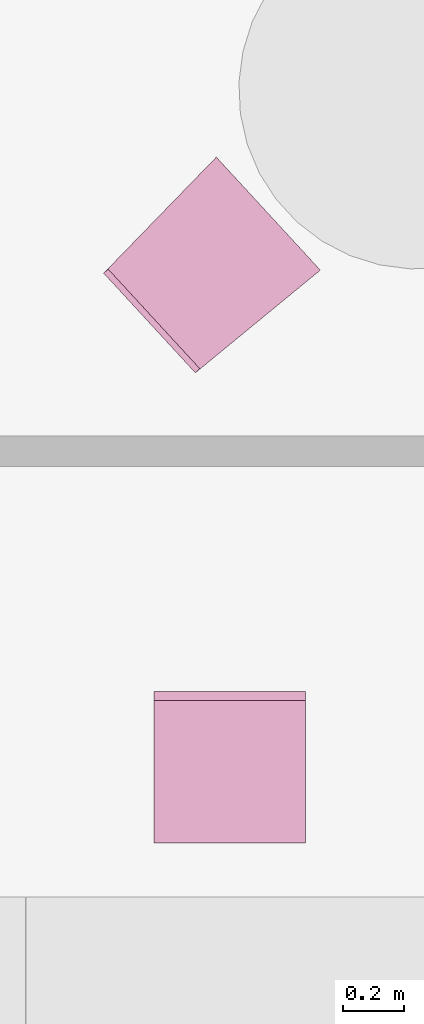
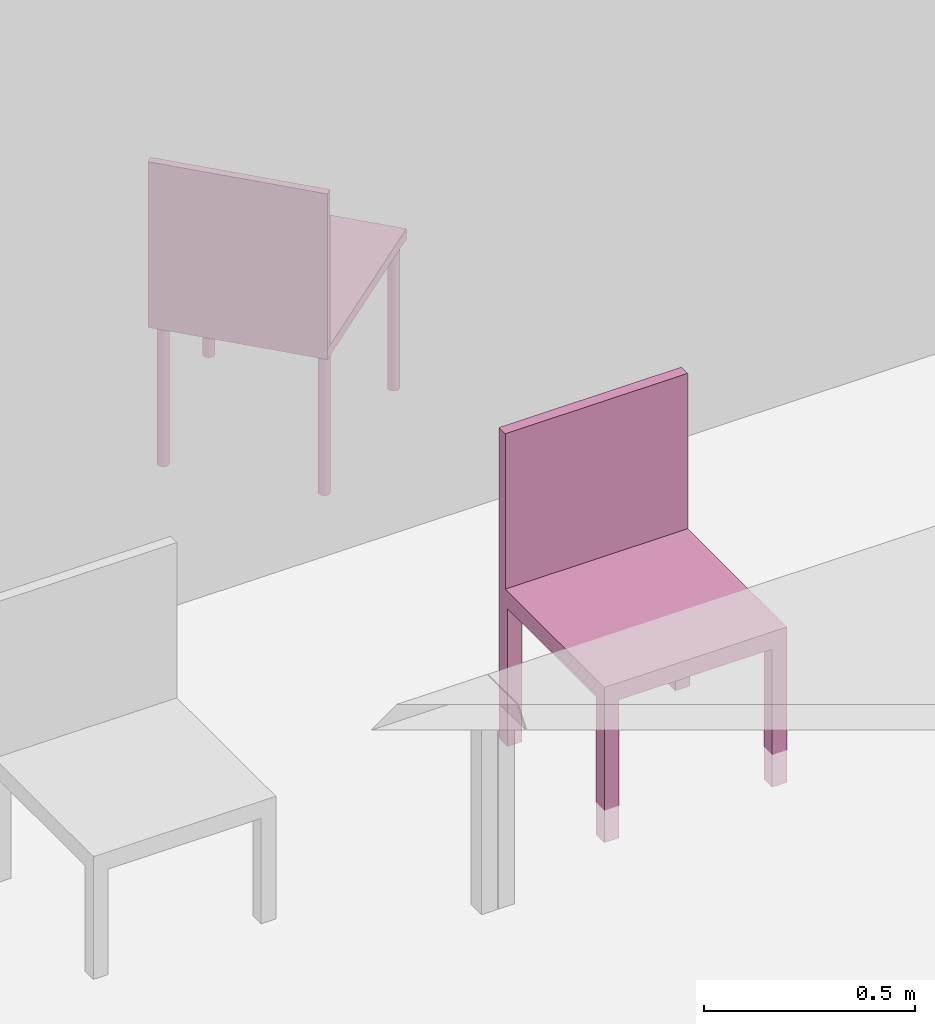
"""IFC4 building model written with IfcOpenShell, lengths in metres."""

from ifc_helpers import new_model, entity, si_unit, converted_unit, derived_unit, frame, origin, place, context, subcontext, project, spatial, faceted_brep, element, save


model = new_model("IFC4")

# Units and contexts
model_context = context("Model", 3, precision=1e-05, world=origin())
body_context = subcontext(model_context, "Body", "Model", "MODEL_VIEW")
ifc_project = project(units=[si_unit("LENGTHUNIT", "METRE"), si_unit("AREAUNIT", "SQUARE_METRE"), si_unit("VOLUMEUNIT", "CUBIC_METRE"), si_unit("MASSUNIT", "GRAM", prefix="KILO"), converted_unit("PLANEANGLEUNIT", "DEGREE", entity("IfcPlaneAngleMeasure", 0.0174532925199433), si_unit("PLANEANGLEUNIT", "RADIAN"), dimensions=[0, 0, 0, 0, 0, 0, 0]), derived_unit("THERMALTRANSMITTANCEUNIT", [(si_unit("POWERUNIT", "WATT"), 1), (si_unit("THERMODYNAMICTEMPERATUREUNIT", "KELVIN"), -1), (si_unit("LENGTHUNIT", "METRE"), -2)]), derived_unit("VOLUMETRICFLOWRATEUNIT", [(si_unit("LENGTHUNIT", "METRE"), 3), (converted_unit("TIMEUNIT", "hour", entity("IfcTimeMeasure", 3600.0), si_unit("TIMEUNIT", "SECOND"), dimensions=[0, 0, 1, 0, 0, 0, 0]), -1), (si_unit("LENGTHUNIT", "METRE"), -1)])], contexts=[model_context])

# Building, storeys
building_placement = place(None, origin())
building = spatial("IfcBuilding", under=ifc_project, at=building_placement, Name="HABITATGE PLURIFAMILIAR", CompositionType="ELEMENT")
storey_1_placement = place(building_placement, frame((0.0, 0.0, 9.26)))
storey_1 = spatial("IfcBuildingStorey", under=building, at=storey_1_placement, Name="PLANTA SEGONA", CompositionType="ELEMENT", Elevation=9.26)
storey_2_placement = place(storey_1_placement, frame((0.0, 0.0, 6.25)))
storey_2 = spatial("IfcBuildingStorey", under=storey_1, at=storey_2_placement, Name="NOU", CompositionType="PARTIAL")

# Furniture
furniture_1_placement = place(storey_2_placement, frame((424.268725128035, 22.9635842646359, -6.34505686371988)))
element("IfcFurniture", 1, at=furniture_1_placement, inside=storey_2, Name="Cadira d'Oficina_P2", context=body_context, shape_type="Brep", body=[
    faceted_brep([(0.5, 0.0, 0.4), (0.5, 0.500000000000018, 0.4), (0.0, 0.5, 0.4), (0.0, 0.0, 0.4), (0.5, 0.500000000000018, 0.45), (0.5, 0.0, 0.45), (0.0, 0.0, 0.45), (0.0, 0.5, 0.45)], [[[0, 1, 2, 3]], [[4, 5, 6, 7]], [[1, 0, 5, 4]], [[2, 1, 4, 7]], [[3, 2, 7, 6]], [[0, 3, 6, 5]]], orient=[[False], [False], [False], [False], [False], [False]]),
    faceted_brep([(0.0, 0.46, 0.0), (0.04, 0.46, 0.0), (0.04, 0.5, 0.0), (0.0, 0.5, 0.0), (0.04, 0.46, 0.4), (0.0, 0.46, 0.4), (0.0, 0.5, 0.4), (0.04, 0.5, 0.4)], [[[0, 1, 2, 3]], [[4, 5, 6, 7]], [[1, 0, 5, 4]], [[2, 1, 4, 7]], [[3, 2, 7, 6]], [[0, 3, 6, 5]]], orient=[[False], [False], [False], [False], [False], [False]]),
    faceted_brep([(0.0, 0.0, 0.0), (0.04, 0.0, 0.0), (0.04, 0.04, 0.0), (0.0, 0.04, 0.0), (0.04, 0.0, 0.4), (0.0, 0.0, 0.4), (0.0, 0.04, 0.4), (0.04, 0.04, 0.4)], [[[0, 1, 2, 3]], [[4, 5, 6, 7]], [[1, 0, 5, 4]], [[2, 1, 4, 7]], [[3, 2, 7, 6]], [[0, 3, 6, 5]]], orient=[[False], [False], [False], [False], [False], [False]]),
    faceted_brep([(0.46, 0.460000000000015, 0.0), (0.5, 0.460000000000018, 0.0), (0.5, 0.500000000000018, 0.0), (0.46, 0.500000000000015, 0.0), (0.5, 0.460000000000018, 0.4), (0.46, 0.460000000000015, 0.4), (0.46, 0.500000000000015, 0.4), (0.5, 0.500000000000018, 0.4)], [[[0, 1, 2, 3]], [[4, 5, 6, 7]], [[1, 0, 5, 4]], [[2, 1, 4, 7]], [[3, 2, 7, 6]], [[0, 3, 6, 5]]], orient=[[False], [False], [False], [False], [False], [False]]),
    faceted_brep([(0.46, 0.0, 0.0), (0.5, 0.0, 0.0), (0.5, 0.0400000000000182, 0.0), (0.46, 0.0400000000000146, 0.0), (0.5, 0.0, 0.4), (0.46, 0.0, 0.4), (0.46, 0.0400000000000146, 0.4), (0.5, 0.0400000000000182, 0.4)], [[[0, 1, 2, 3]], [[4, 5, 6, 7]], [[1, 0, 5, 4]], [[2, 1, 4, 7]], [[3, 2, 7, 6]], [[0, 3, 6, 5]]], orient=[[False], [False], [False], [False], [False], [False]]),
    faceted_brep([(0.0, 0.47, 0.45), (0.5, 0.470000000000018, 0.45), (0.5, 0.500000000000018, 0.45), (0.0, 0.5, 0.45), (0.5, 0.470000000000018, 0.9), (0.0, 0.47, 0.9), (0.0, 0.5, 0.9), (0.5, 0.500000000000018, 0.9)], [[[0, 1, 2, 3]], [[4, 5, 6, 7]], [[1, 0, 5, 4]], [[2, 1, 4, 7]], [[3, 2, 7, 6]], [[0, 3, 6, 5]]], orient=[[False], [False], [False], [False], [False], [False]]),
])
furniture_2_placement = place(storey_2_placement, frame((424.102623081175, 24.5138895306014, -6.3514820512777)))
element("IfcFurniture", 2, at=furniture_2_placement, inside=storey_2, Name="Cadira confident_P2", context=body_context, shape_type="Brep", body=[
    faceted_brep([(0.669598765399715, 0.350446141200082, 0.0), (0.66784390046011, 0.348522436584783, 0.0), (0.666449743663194, 0.346323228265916, 0.0), (0.665458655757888, 0.343915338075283, 0.0), (0.664900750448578, 0.341371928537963, 0.0), (0.664792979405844, 0.338770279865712, 0.0), (0.665138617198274, 0.336189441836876, 0.0), (0.665927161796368, 0.333707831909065, 0.0), (0.667134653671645, 0.331400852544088, 0.0), (0.668724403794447, 0.329338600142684, 0.0), (0.670648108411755, 0.327583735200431, 0.0), (0.672847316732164, 0.326189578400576, 0.0), (0.675255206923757, 0.325198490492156, 0.0), (0.677798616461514, 0.324640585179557, 0.0), (0.680400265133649, 0.324532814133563, 0.0), (0.682981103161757, 0.324878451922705, 0.0), (0.685462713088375, 0.325666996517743, 0.0), (0.687769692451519, 0.326874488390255, 0.0), (0.689831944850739, 0.328464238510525, 0.0), (0.691586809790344, 0.330387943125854, 0.0), (0.69298096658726, 0.332587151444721, 0.0), (0.693972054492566, 0.334995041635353, 0.0), (0.694529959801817, 0.337538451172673, 0.0), (0.69463773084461, 0.340140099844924, 0.0), (0.69429209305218, 0.342720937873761, 0.0), (0.693503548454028, 0.345202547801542, 0.0), (0.692296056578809, 0.34750952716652, 0.0), (0.690706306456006, 0.349571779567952, 0.0), (0.688782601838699, 0.351326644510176, 0.0), (0.686583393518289, 0.352720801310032, 0.0), (0.684175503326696, 0.353711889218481, 0.0), (0.681632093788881, 0.354269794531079, 0.0), (0.679030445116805, 0.354377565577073, 0.0), (0.676449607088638, 0.354031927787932, 0.0), (0.673967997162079, 0.353243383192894, 0.0), (0.671661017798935, 0.352035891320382, 0.0), (0.669598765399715, 0.350446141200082, 0.448281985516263), (0.671661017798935, 0.352035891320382, 0.448281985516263), (0.673967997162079, 0.353243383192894, 0.448281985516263), (0.676449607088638, 0.354031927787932, 0.448281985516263), (0.679030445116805, 0.354377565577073, 0.448281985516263), (0.681632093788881, 0.354269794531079, 0.448281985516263), (0.684175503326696, 0.353711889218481, 0.448281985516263), (0.686583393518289, 0.352720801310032, 0.448281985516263), (0.688782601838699, 0.351326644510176, 0.448281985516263), (0.690706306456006, 0.349571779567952, 0.448281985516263), (0.692296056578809, 0.34750952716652, 0.448281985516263), (0.693503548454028, 0.345202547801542, 0.448281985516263), (0.69429209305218, 0.342720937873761, 0.448281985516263), (0.69463773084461, 0.340140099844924, 0.448281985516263), (0.694529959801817, 0.337538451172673, 0.448281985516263), (0.693972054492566, 0.334995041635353, 0.448281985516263), (0.69298096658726, 0.332587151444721, 0.448281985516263), (0.691586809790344, 0.330387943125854, 0.448281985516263), (0.689831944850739, 0.328464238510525, 0.448281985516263), (0.687769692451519, 0.326874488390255, 0.448281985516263), (0.685462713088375, 0.325666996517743, 0.448281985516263), (0.682981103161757, 0.324878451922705, 0.448281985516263), (0.680400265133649, 0.324532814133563, 0.448281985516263), (0.677798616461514, 0.324640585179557, 0.448281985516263), (0.675255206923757, 0.325198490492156, 0.448281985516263), (0.672847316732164, 0.326189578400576, 0.448281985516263), (0.670648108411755, 0.327583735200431, 0.448281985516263), (0.668724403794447, 0.329338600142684, 0.448281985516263), (0.667134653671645, 0.331400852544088, 0.448281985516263), (0.665927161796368, 0.333707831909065, 0.448281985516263), (0.665138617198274, 0.336189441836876, 0.448281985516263), (0.664792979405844, 0.338770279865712, 0.448281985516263), (0.664900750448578, 0.341371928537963, 0.448281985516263), (0.665458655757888, 0.343915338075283, 0.448281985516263), (0.666449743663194, 0.346323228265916, 0.448281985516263), (0.66784390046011, 0.348522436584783, 0.448281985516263)], [[[0, 1, 2, 3, 4, 5, 6, 7, 8, 9, 10, 11, 12, 13, 14, 15, 16, 17, 18, 19, 20, 21, 22, 23, 24, 25, 26, 27, 28, 29, 30, 31, 32, 33, 34, 35]], [[36, 37, 38, 39, 40, 41, 42, 43, 44, 45, 46, 47, 48, 49, 50, 51, 52, 53, 54, 55, 56, 57, 58, 59, 60, 61, 62, 63, 64, 65, 66, 67, 68, 69, 70, 71]], [[1, 0, 36, 71]], [[2, 1, 71, 70]], [[3, 2, 70, 69]], [[4, 3, 69, 68]], [[5, 4, 68, 67]], [[6, 5, 67, 66]], [[7, 6, 66, 65]], [[8, 7, 65, 64]], [[9, 8, 64, 63]], [[10, 9, 63, 62]], [[11, 10, 62, 61]], [[12, 11, 61, 60]], [[13, 12, 60, 59]], [[14, 13, 59, 58]], [[15, 14, 58, 57]], [[16, 15, 57, 56]], [[17, 16, 56, 55]], [[18, 17, 55, 54]], [[19, 18, 54, 53]], [[20, 19, 53, 52]], [[21, 20, 52, 51]], [[22, 21, 51, 50]], [[23, 22, 50, 49]], [[24, 23, 49, 48]], [[25, 24, 48, 47]], [[26, 25, 47, 46]], [[27, 26, 46, 45]], [[28, 27, 45, 44]], [[29, 28, 44, 43]], [[30, 29, 43, 42]], [[31, 30, 42, 41]], [[32, 31, 41, 40]], [[33, 32, 40, 39]], [[34, 33, 39, 38]], [[35, 34, 38, 37]], [[0, 35, 37, 36]]], orient=[[False], [False], [False], [False], [False], [False], [False], [False], [False], [False], [False], [False], [False], [False], [False], [False], [False], [False], [False], [False], [False], [False], [False], [False], [False], [False], [False], [False], [False], [False], [False], [False], [False], [False], [False], [False], [False], [False]]),
    faceted_brep([(0.31065747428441, 0.0576231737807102, 0.0), (0.308902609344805, 0.0556994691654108, 0.0), (0.307508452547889, 0.0535002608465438, 0.0), (0.306517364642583, 0.0510923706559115, 0.0), (0.305959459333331, 0.0485489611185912, 0.0), (0.305851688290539, 0.0459473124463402, 0.0), (0.306197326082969, 0.0433664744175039, 0.0), (0.306985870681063, 0.0408848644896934, 0.0), (0.30819336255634, 0.038577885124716, 0.0), (0.309783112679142, 0.0365156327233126, 0.0), (0.311706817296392, 0.0347607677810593, 0.0), (0.31390602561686, 0.0333666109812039, 0.0), (0.316313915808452, 0.0323755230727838, 0.0), (0.318857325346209, 0.0318176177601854, 0.0), (0.321458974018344, 0.0317098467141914, 0.0), (0.324039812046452, 0.032055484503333, 0.0), (0.32652142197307, 0.0328440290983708, 0.0), (0.328828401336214, 0.0340515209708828, 0.0), (0.330890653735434, 0.0356412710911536, 0.0), (0.332645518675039, 0.0375649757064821, 0.0), (0.334039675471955, 0.0397641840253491, 0.0), (0.335030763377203, 0.0421720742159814, 0.0), (0.335588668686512, 0.0447154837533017, 0.0), (0.335696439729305, 0.0473171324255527, 0.0), (0.335350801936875, 0.049897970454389, 0.0), (0.334562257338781, 0.0523795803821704, 0.0), (0.333354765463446, 0.0546865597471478, 0.0), (0.331765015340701, 0.0567488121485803, 0.0), (0.329841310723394, 0.0585036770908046, 0.0), (0.327642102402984, 0.05989783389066, 0.0), (0.325234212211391, 0.0608889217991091, 0.0), (0.322690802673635, 0.0614468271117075, 0.0), (0.3200891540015, 0.0615545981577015, 0.0), (0.317508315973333, 0.0612089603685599, 0.0), (0.315026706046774, 0.0604204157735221, 0.0), (0.31271972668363, 0.0592129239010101, 0.0), (0.31065747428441, 0.0576231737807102, 0.448281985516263), (0.31271972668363, 0.0592129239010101, 0.448281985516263), (0.315026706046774, 0.0604204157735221, 0.448281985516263), (0.317508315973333, 0.0612089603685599, 0.448281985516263), (0.3200891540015, 0.0615545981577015, 0.448281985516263), (0.322690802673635, 0.0614468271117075, 0.448281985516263), (0.325234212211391, 0.0608889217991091, 0.448281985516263), (0.327642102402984, 0.05989783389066, 0.448281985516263), (0.329841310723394, 0.0585036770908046, 0.448281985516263), (0.331765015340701, 0.0567488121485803, 0.448281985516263), (0.333354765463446, 0.0546865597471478, 0.448281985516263), (0.334562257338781, 0.0523795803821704, 0.448281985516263), (0.335350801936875, 0.049897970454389, 0.448281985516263), (0.335696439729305, 0.0473171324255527, 0.448281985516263), (0.335588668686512, 0.0447154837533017, 0.448281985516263), (0.335030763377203, 0.0421720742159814, 0.448281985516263), (0.334039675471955, 0.0397641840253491, 0.448281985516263), (0.332645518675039, 0.0375649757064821, 0.448281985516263), (0.330890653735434, 0.0356412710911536, 0.448281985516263), (0.328828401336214, 0.0340515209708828, 0.448281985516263), (0.32652142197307, 0.0328440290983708, 0.448281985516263), (0.324039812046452, 0.032055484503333, 0.448281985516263), (0.321458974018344, 0.0317098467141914, 0.448281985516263), (0.318857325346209, 0.0318176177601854, 0.448281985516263), (0.316313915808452, 0.0323755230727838, 0.448281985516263), (0.31390602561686, 0.0333666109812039, 0.448281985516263), (0.311706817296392, 0.0347607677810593, 0.448281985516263), (0.309783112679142, 0.0365156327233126, 0.448281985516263), (0.30819336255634, 0.038577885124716, 0.448281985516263), (0.306985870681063, 0.0408848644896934, 0.448281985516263), (0.306197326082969, 0.0433664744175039, 0.448281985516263), (0.305851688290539, 0.0459473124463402, 0.448281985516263), (0.305959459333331, 0.0485489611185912, 0.448281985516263), (0.306517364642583, 0.0510923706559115, 0.448281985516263), (0.307508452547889, 0.0535002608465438, 0.448281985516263), (0.308902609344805, 0.0556994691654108, 0.448281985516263)], [[[0, 1, 2, 3, 4, 5, 6, 7, 8, 9, 10, 11, 12, 13, 14, 15, 16, 17, 18, 19, 20, 21, 22, 23, 24, 25, 26, 27, 28, 29, 30, 31, 32, 33, 34, 35]], [[36, 37, 38, 39, 40, 41, 42, 43, 44, 45, 46, 47, 48, 49, 50, 51, 52, 53, 54, 55, 56, 57, 58, 59, 60, 61, 62, 63, 64, 65, 66, 67, 68, 69, 70, 71]], [[1, 0, 36, 71]], [[2, 1, 71, 70]], [[3, 2, 70, 69]], [[4, 3, 69, 68]], [[5, 4, 68, 67]], [[6, 5, 67, 66]], [[7, 6, 66, 65]], [[8, 7, 65, 64]], [[9, 8, 64, 63]], [[10, 9, 63, 62]], [[11, 10, 62, 61]], [[12, 11, 61, 60]], [[13, 12, 60, 59]], [[14, 13, 59, 58]], [[15, 14, 58, 57]], [[16, 15, 57, 56]], [[17, 16, 56, 55]], [[18, 17, 55, 54]], [[19, 18, 54, 53]], [[20, 19, 53, 52]], [[21, 20, 52, 51]], [[22, 21, 51, 50]], [[23, 22, 50, 49]], [[24, 23, 49, 48]], [[25, 24, 48, 47]], [[26, 25, 47, 46]], [[27, 26, 46, 45]], [[28, 27, 45, 44]], [[29, 28, 44, 43]], [[30, 29, 43, 42]], [[31, 30, 42, 41]], [[32, 31, 41, 40]], [[33, 32, 40, 39]], [[34, 33, 39, 38]], [[35, 34, 38, 37]], [[0, 35, 37, 36]]], orient=[[False], [False], [False], [False], [False], [False], [False], [False], [False], [False], [False], [False], [False], [False], [False], [False], [False], [False], [False], [False], [False], [False], [False], [False], [False], [False], [False], [False], [False], [False], [False], [False], [False], [False], [False], [False], [False], [False]]),
    faceted_brep([(0.358070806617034, 0.688898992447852, 0.0), (0.356315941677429, 0.686975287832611, 0.0), (0.354921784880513, 0.684776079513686, 0.0), (0.353930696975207, 0.682368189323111, 0.0), (0.353372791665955, 0.679824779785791, 0.0), (0.353265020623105, 0.67722313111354, 0.0), (0.353610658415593, 0.674642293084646, 0.0), (0.354399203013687, 0.672160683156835, 0.0), (0.355606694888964, 0.669853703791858, 0.0), (0.357196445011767, 0.667791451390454, 0.0), (0.359120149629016, 0.666036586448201, 0.0), (0.361319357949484, 0.664642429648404, 0.0), (0.363727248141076, 0.663651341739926, 0.0), (0.366270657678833, 0.663093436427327, 0.0), (0.368872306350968, 0.662985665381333, 0.0), (0.371453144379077, 0.663331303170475, 0.0), (0.373934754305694, 0.664119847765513, 0.0), (0.376241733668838, 0.665327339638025, 0.0), (0.378303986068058, 0.666917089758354, 0.0), (0.380058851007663, 0.668840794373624, 0.0), (0.381453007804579, 0.671040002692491, 0.0), (0.382444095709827, 0.673447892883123, 0.0), (0.383002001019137, 0.675991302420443, 0.0), (0.383109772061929, 0.678592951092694, 0.0), (0.382764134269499, 0.681173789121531, 0.0), (0.381975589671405, 0.68365539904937, 0.0), (0.38076809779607, 0.68596237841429, 0.0), (0.379178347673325, 0.688024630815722, 0.0), (0.377254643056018, 0.689779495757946, 0.0), (0.375055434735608, 0.691173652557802, 0.0), (0.372647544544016, 0.692164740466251, 0.0), (0.370104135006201, 0.692722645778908, 0.0), (0.367502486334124, 0.692830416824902, 0.0), (0.364921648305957, 0.69248477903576, 0.0), (0.362440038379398, 0.691696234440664, 0.0), (0.360133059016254, 0.69048874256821, 0.0), (0.358070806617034, 0.688898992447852, 0.448281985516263), (0.360133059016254, 0.69048874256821, 0.448281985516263), (0.362440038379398, 0.691696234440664, 0.448281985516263), (0.364921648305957, 0.69248477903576, 0.448281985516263), (0.367502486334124, 0.692830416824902, 0.448281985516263), (0.370104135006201, 0.692722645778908, 0.448281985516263), (0.372647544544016, 0.692164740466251, 0.448281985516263), (0.375055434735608, 0.691173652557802, 0.448281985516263), (0.377254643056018, 0.689779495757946, 0.448281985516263), (0.379178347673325, 0.688024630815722, 0.448281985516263), (0.38076809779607, 0.68596237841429, 0.448281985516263), (0.381975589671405, 0.68365539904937, 0.448281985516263), (0.382764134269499, 0.681173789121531, 0.448281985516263), (0.383109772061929, 0.678592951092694, 0.448281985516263), (0.383002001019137, 0.675991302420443, 0.448281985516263), (0.382444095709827, 0.673447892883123, 0.448281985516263), (0.381453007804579, 0.671040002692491, 0.448281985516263), (0.380058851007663, 0.668840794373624, 0.448281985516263), (0.378303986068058, 0.666917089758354, 0.448281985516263), (0.376241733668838, 0.665327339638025, 0.448281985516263), (0.373934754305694, 0.664119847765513, 0.448281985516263), (0.371453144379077, 0.663331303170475, 0.448281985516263), (0.368872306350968, 0.662985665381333, 0.448281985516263), (0.366270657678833, 0.663093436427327, 0.448281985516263), (0.363727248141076, 0.663651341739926, 0.448281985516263), (0.361319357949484, 0.664642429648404, 0.448281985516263), (0.359120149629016, 0.666036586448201, 0.448281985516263), (0.357196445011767, 0.667791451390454, 0.448281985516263), (0.355606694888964, 0.669853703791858, 0.448281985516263), (0.354399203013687, 0.672160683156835, 0.448281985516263), (0.353610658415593, 0.674642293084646, 0.448281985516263), (0.353265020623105, 0.67722313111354, 0.448281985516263), (0.353372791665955, 0.679824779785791, 0.448281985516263), (0.353930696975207, 0.682368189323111, 0.448281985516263), (0.354921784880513, 0.684776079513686, 0.448281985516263), (0.356315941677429, 0.686975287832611, 0.448281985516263)], [[[0, 1, 2, 3, 4, 5, 6, 7, 8, 9, 10, 11, 12, 13, 14, 15, 16, 17, 18, 19, 20, 21, 22, 23, 24, 25, 26, 27, 28, 29, 30, 31, 32, 33, 34, 35]], [[36, 37, 38, 39, 40, 41, 42, 43, 44, 45, 46, 47, 48, 49, 50, 51, 52, 53, 54, 55, 56, 57, 58, 59, 60, 61, 62, 63, 64, 65, 66, 67, 68, 69, 70, 71]], [[1, 0, 36, 71]], [[2, 1, 71, 70]], [[3, 2, 70, 69]], [[4, 3, 69, 68]], [[5, 4, 68, 67]], [[6, 5, 67, 66]], [[7, 6, 66, 65]], [[8, 7, 65, 64]], [[9, 8, 64, 63]], [[10, 9, 63, 62]], [[11, 10, 62, 61]], [[12, 11, 61, 60]], [[13, 12, 60, 59]], [[14, 13, 59, 58]], [[15, 14, 58, 57]], [[16, 15, 57, 56]], [[17, 16, 56, 55]], [[18, 17, 55, 54]], [[19, 18, 54, 53]], [[20, 19, 53, 52]], [[21, 20, 52, 51]], [[22, 21, 51, 50]], [[23, 22, 50, 49]], [[24, 23, 49, 48]], [[25, 24, 48, 47]], [[26, 25, 47, 46]], [[27, 26, 46, 45]], [[28, 27, 45, 44]], [[29, 28, 44, 43]], [[30, 29, 43, 42]], [[31, 30, 42, 41]], [[32, 31, 41, 40]], [[33, 32, 40, 39]], [[34, 33, 39, 38]], [[35, 34, 38, 37]], [[0, 35, 37, 36]]], orient=[[False], [False], [False], [False], [False], [False], [False], [False], [False], [False], [False], [False], [False], [False], [False], [False], [False], [False], [False], [False], [False], [False], [False], [False], [False], [False], [False], [False], [False], [False], [False], [False], [False], [False], [False], [False], [False], [False]]),
    faceted_brep([(0.0397635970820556, 0.351930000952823, 0.0), (0.0380087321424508, 0.350006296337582, 0.0), (0.0366145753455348, 0.347807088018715, 0.0), (0.0356234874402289, 0.345399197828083, 0.0), (0.0350655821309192, 0.342855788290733, 0.0), (0.0349578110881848, 0.340254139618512, 0.0), (0.0353034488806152, 0.337673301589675, 0.0), (0.0360919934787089, 0.335191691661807, 0.0), (0.0372994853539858, 0.332884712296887, 0.0), (0.0388892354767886, 0.330822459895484, 0.0), (0.0408129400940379, 0.329067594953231, 0.0), (0.0430121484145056, 0.327673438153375, 0.0), (0.0454200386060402, 0.326682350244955, 0.0), (0.0479634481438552, 0.326124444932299, 0.0), (0.0505650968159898, 0.326016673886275, 0.0), (0.0531459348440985, 0.326362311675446, 0.0), (0.0556275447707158, 0.327150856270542, 0.0), (0.0579345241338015, 0.328358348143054, 0.0), (0.0599967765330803, 0.329948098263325, 0.0), (0.0617516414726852, 0.331871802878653, 0.0), (0.0631457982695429, 0.33407101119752, 0.0), (0.064136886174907, 0.336478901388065, 0.0), (0.0646947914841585, 0.339022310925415, 0.0), (0.0648025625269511, 0.341623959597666, 0.0), (0.0644569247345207, 0.34420479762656, 0.0), (0.0636683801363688, 0.346686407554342, 0.0), (0.0624608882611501, 0.348993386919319, 0.0), (0.0608711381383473, 0.351055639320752, 0.0), (0.0589474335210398, 0.352810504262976, 0.0), (0.0567482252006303, 0.354204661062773, 0.0), (0.0543403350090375, 0.35519574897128, 0.0), (0.0517969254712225, 0.355753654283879, 0.0), (0.0491952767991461, 0.355861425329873, 0.0), (0.0466144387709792, 0.355515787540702, 0.0), (0.0441328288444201, 0.354727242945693, 0.0), (0.0418258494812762, 0.353519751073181, 0.0), (0.0397635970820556, 0.351930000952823, 0.448281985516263), (0.0418258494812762, 0.353519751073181, 0.448281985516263), (0.0441328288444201, 0.354727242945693, 0.448281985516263), (0.0466144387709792, 0.355515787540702, 0.448281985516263), (0.0491952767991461, 0.355861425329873, 0.448281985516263), (0.0517969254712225, 0.355753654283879, 0.448281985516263), (0.0543403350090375, 0.35519574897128, 0.448281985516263), (0.0567482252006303, 0.354204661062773, 0.448281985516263), (0.0589474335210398, 0.352810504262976, 0.448281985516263), (0.0608711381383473, 0.351055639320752, 0.448281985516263), (0.0624608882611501, 0.348993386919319, 0.448281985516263), (0.0636683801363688, 0.346686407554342, 0.448281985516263), (0.0644569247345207, 0.34420479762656, 0.448281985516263), (0.0648025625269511, 0.341623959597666, 0.448281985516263), (0.0646947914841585, 0.339022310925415, 0.448281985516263), (0.064136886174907, 0.336478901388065, 0.448281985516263), (0.0631457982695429, 0.33407101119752, 0.448281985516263), (0.0617516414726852, 0.331871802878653, 0.448281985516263), (0.0599967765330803, 0.329948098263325, 0.448281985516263), (0.0579345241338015, 0.328358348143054, 0.448281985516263), (0.0556275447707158, 0.327150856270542, 0.448281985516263), (0.0531459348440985, 0.326362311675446, 0.448281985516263), (0.0505650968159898, 0.326016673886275, 0.448281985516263), (0.0479634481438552, 0.326124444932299, 0.448281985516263), (0.0454200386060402, 0.326682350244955, 0.448281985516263), (0.0430121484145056, 0.327673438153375, 0.448281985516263), (0.0408129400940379, 0.329067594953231, 0.448281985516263), (0.0388892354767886, 0.330822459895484, 0.448281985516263), (0.0372994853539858, 0.332884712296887, 0.448281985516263), (0.0360919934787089, 0.335191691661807, 0.448281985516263), (0.0353034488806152, 0.337673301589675, 0.448281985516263), (0.0349578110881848, 0.340254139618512, 0.448281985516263), (0.0350655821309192, 0.342855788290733, 0.448281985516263), (0.0356234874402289, 0.345399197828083, 0.448281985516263), (0.0366145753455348, 0.347807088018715, 0.448281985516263), (0.0380087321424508, 0.350006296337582, 0.448281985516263)], [[[0, 1, 2, 3, 4, 5, 6, 7, 8, 9, 10, 11, 12, 13, 14, 15, 16, 17, 18, 19, 20, 21, 22, 23, 24, 25, 26, 27, 28, 29, 30, 31, 32, 33, 34, 35]], [[36, 37, 38, 39, 40, 41, 42, 43, 44, 45, 46, 47, 48, 49, 50, 51, 52, 53, 54, 55, 56, 57, 58, 59, 60, 61, 62, 63, 64, 65, 66, 67, 68, 69, 70, 71]], [[1, 0, 36, 71]], [[2, 1, 71, 70]], [[3, 2, 70, 69]], [[4, 3, 69, 68]], [[5, 4, 68, 67]], [[6, 5, 67, 66]], [[7, 6, 66, 65]], [[8, 7, 65, 64]], [[9, 8, 64, 63]], [[10, 9, 63, 62]], [[11, 10, 62, 61]], [[12, 11, 61, 60]], [[13, 12, 60, 59]], [[14, 13, 59, 58]], [[15, 14, 58, 57]], [[16, 15, 57, 56]], [[17, 16, 56, 55]], [[18, 17, 55, 54]], [[19, 18, 54, 53]], [[20, 19, 53, 52]], [[21, 20, 52, 51]], [[22, 21, 51, 50]], [[23, 22, 50, 49]], [[24, 23, 49, 48]], [[25, 24, 48, 47]], [[26, 25, 47, 46]], [[27, 26, 46, 45]], [[28, 27, 45, 44]], [[29, 28, 44, 43]], [[30, 29, 43, 42]], [[31, 30, 42, 41]], [[32, 31, 41, 40]], [[33, 32, 40, 39]], [[34, 33, 39, 38]], [[35, 34, 38, 37]], [[0, 35, 37, 36]]], orient=[[False], [False], [False], [False], [False], [False], [False], [False], [False], [False], [False], [False], [False], [False], [False], [False], [False], [False], [False], [False], [False], [False], [False], [False], [False], [False], [False], [False], [False], [False], [False], [False], [False], [False], [False], [False], [False], [False]]),
    faceted_brep([(0.0, 0.328530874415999, 0.418281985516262), (0.302395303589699, 0.0, 0.418281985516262), (0.714587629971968, 0.338627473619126, 0.418281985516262), (0.371558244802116, 0.711304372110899, 0.418281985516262), (0.371558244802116, 0.711304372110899, 0.448281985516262), (0.714587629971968, 0.338627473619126, 0.448281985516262), (0.302395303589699, 0.0, 0.448281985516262), (0.0, 0.328530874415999, 0.448281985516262)], [[[0, 1, 2, 3]], [[4, 5, 6, 7]], [[3, 4, 7, 0]], [[2, 5, 4, 3]], [[1, 6, 5, 2]], [[0, 7, 6, 1]]], orient=[[False], [False], [False], [False], [False], [False]]),
    faceted_brep([(0.0147153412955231, 0.342075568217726, 0.448281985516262), (0.0, 0.328530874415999, 0.448281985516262), (0.302395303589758, 0.0, 0.448281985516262), (0.317110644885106, 0.0135446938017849, 0.448281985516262), (0.317110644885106, 0.0135446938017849, 0.898281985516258), (0.302395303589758, 0.0, 0.898281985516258), (0.0, 0.328530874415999, 0.898281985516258), (0.0147153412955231, 0.342075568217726, 0.898281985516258)], [[[0, 1, 2, 3]], [[4, 5, 6, 7]], [[3, 4, 7, 0]], [[2, 5, 4, 3]], [[1, 6, 5, 2]], [[0, 7, 6, 1]]], orient=[[False], [False], [False], [False], [False], [False]]),
])

save(model, "model.ifc")
